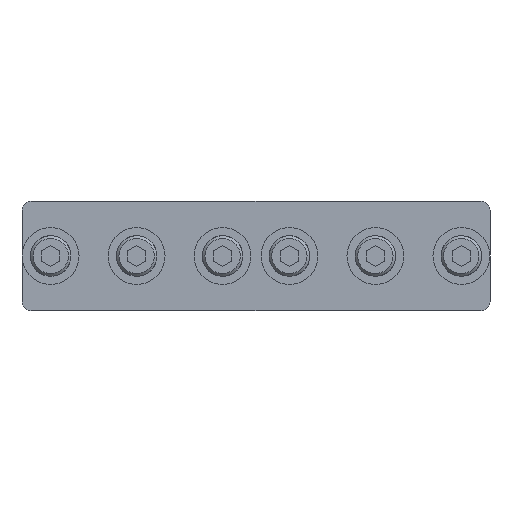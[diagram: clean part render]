
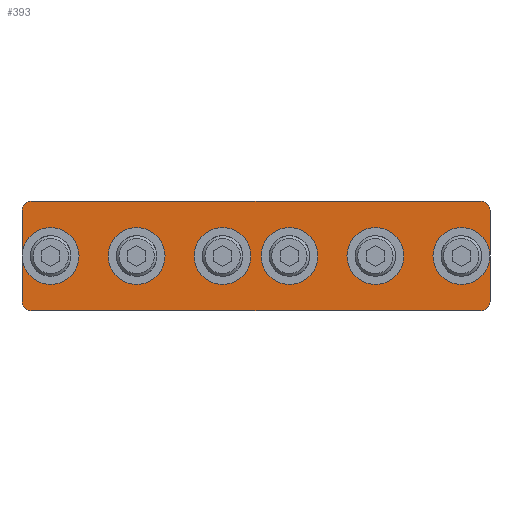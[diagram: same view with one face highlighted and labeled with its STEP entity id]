
A CAD part, left-side view. The second image highlights one B-rep face of the part: STEP entity #393.
In plain terms, the highlighted planar face has unit normal (-1, 0, 0) as drawn and (0, 0, 1) by its records, which use the part's own axes.
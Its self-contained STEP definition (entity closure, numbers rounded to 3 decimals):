
#393=ADVANCED_FACE('',(#606,#607,#608,#609,#610,#611,#612),#613,.T.);
#606=FACE_BOUND('',#775,.T.);
#607=FACE_BOUND('',#776,.T.);
#608=FACE_BOUND('',#777,.T.);
#609=FACE_OUTER_BOUND('',#778,.T.);
#610=FACE_BOUND('',#779,.T.);
#611=FACE_BOUND('',#780,.T.);
#612=FACE_BOUND('',#781,.T.);
#613=PLANE('',#782);
#775=EDGE_LOOP('',(#1047));
#776=EDGE_LOOP('',(#1048));
#777=EDGE_LOOP('',(#1049));
#778=EDGE_LOOP('',(#1050,#1051,#1052,#1053,#1054,#1055,#1056,#1057));
#779=EDGE_LOOP('',(#1058));
#780=EDGE_LOOP('',(#1059));
#781=EDGE_LOOP('',(#1060));
#782=AXIS2_PLACEMENT_3D('',#1061,#1062,#1063);
#1047=ORIENTED_EDGE('',*,*,#1287,.T.);
#1048=ORIENTED_EDGE('',*,*,#1226,.T.);
#1049=ORIENTED_EDGE('',*,*,#1288,.T.);
#1050=ORIENTED_EDGE('',*,*,#1289,.T.);
#1051=ORIENTED_EDGE('',*,*,#1290,.T.);
#1052=ORIENTED_EDGE('',*,*,#1263,.T.);
#1053=ORIENTED_EDGE('',*,*,#1251,.T.);
#1054=ORIENTED_EDGE('',*,*,#1256,.T.);
#1055=ORIENTED_EDGE('',*,*,#1291,.T.);
#1056=ORIENTED_EDGE('',*,*,#1292,.T.);
#1057=ORIENTED_EDGE('',*,*,#1293,.T.);
#1058=ORIENTED_EDGE('',*,*,#1237,.T.);
#1059=ORIENTED_EDGE('',*,*,#1240,.T.);
#1060=ORIENTED_EDGE('',*,*,#1275,.T.);
#1061=CARTESIAN_POINT('',(2.,2.0,1.5));
#1062=DIRECTION('',(0.0,0.0,1.0));
#1063=DIRECTION('',(1.0,0.0,0.0));
#1226=EDGE_CURVE('',#1597,#1597,#1598,.T.);
#1237=EDGE_CURVE('',#1616,#1616,#1617,.T.);
#1240=EDGE_CURVE('',#1621,#1621,#1622,.T.);
#1251=EDGE_CURVE('',#1640,#1638,#1641,.T.);
#1256=EDGE_CURVE('',#1638,#1646,#1648,.T.);
#1263=EDGE_CURVE('',#1658,#1640,#1659,.T.);
#1275=EDGE_CURVE('',#1673,#1673,#1674,.T.);
#1287=EDGE_CURVE('',#1693,#1693,#1694,.T.);
#1288=EDGE_CURVE('',#1695,#1695,#1696,.T.);
#1289=EDGE_CURVE('',#1697,#1698,#1699,.T.);
#1290=EDGE_CURVE('',#1698,#1658,#1700,.T.);
#1291=EDGE_CURVE('',#1646,#1701,#1702,.T.);
#1292=EDGE_CURVE('',#1701,#1703,#1704,.T.);
#1293=EDGE_CURVE('',#1703,#1697,#1705,.T.);
#1597=VERTEX_POINT('',#1830);
#1598=CIRCLE('',#1831,2.6);
#1616=VERTEX_POINT('',#1853);
#1617=CIRCLE('',#1854,2.6);
#1621=VERTEX_POINT('',#1858);
#1622=CIRCLE('',#1859,2.6);
#1638=VERTEX_POINT('',#1880);
#1640=VERTEX_POINT('',#1883);
#1641=LINE('',#1884,#1885);
#1646=VERTEX_POINT('',#1891);
#1648=CIRCLE('',#1894,2.);
#1658=VERTEX_POINT('',#1907);
#1659=CIRCLE('',#1908,2.);
#1673=VERTEX_POINT('',#1926);
#1674=CIRCLE('',#1927,2.6);
#1693=VERTEX_POINT('',#1949);
#1694=CIRCLE('',#1950,2.6);
#1695=VERTEX_POINT('',#1951);
#1696=CIRCLE('',#1952,2.6);
#1697=VERTEX_POINT('',#1953);
#1698=VERTEX_POINT('',#1954);
#1699=CIRCLE('',#1955,2.0);
#1700=LINE('',#1956,#1957);
#1701=VERTEX_POINT('',#1958);
#1702=LINE('',#1959,#1960);
#1703=VERTEX_POINT('',#1961);
#1704=CIRCLE('',#1962,2.);
#1705=LINE('',#1963,#1964);
#1830=CARTESIAN_POINT('',(21.4,11.5,1.5));
#1831=AXIS2_PLACEMENT_3D('',#2140,#2141,#2142);
#1853=CARTESIAN_POINT('',(53.4,11.5,1.5));
#1854=AXIS2_PLACEMENT_3D('',#2156,#2157,#2158);
#1858=CARTESIAN_POINT('',(39.4,11.5,1.5));
#1859=AXIS2_PLACEMENT_3D('',#2162,#2163,#2164);
#1880=CARTESIAN_POINT('',(98.0,21.0,1.5));
#1883=CARTESIAN_POINT('',(98.0,2.0,1.5));
#1884=CARTESIAN_POINT('',(98.0,2.0,1.5));
#1885=VECTOR('',#2177,1.0);
#1891=CARTESIAN_POINT('',(96.0,23.0,1.5));
#1894=AXIS2_PLACEMENT_3D('',#2183,#2184,#2185);
#1907=CARTESIAN_POINT('',(96.0,0.0,1.5));
#1908=AXIS2_PLACEMENT_3D('',#2192,#2193,#2194);
#1926=CARTESIAN_POINT('',(3.4,11.5,1.5));
#1927=AXIS2_PLACEMENT_3D('',#2205,#2206,#2207);
#1949=CARTESIAN_POINT('',(89.4,11.5,1.5));
#1950=AXIS2_PLACEMENT_3D('',#2226,#2227,#2228);
#1951=CARTESIAN_POINT('',(71.4,11.5,1.5));
#1952=AXIS2_PLACEMENT_3D('',#2229,#2230,#2231);
#1953=CARTESIAN_POINT('',(0.,2.0,1.5));
#1954=CARTESIAN_POINT('',(2.,0.0,1.5));
#1955=AXIS2_PLACEMENT_3D('',#2232,#2233,#2234);
#1956=CARTESIAN_POINT('',(2.,0.0,1.5));
#1957=VECTOR('',#2235,1.0);
#1958=CARTESIAN_POINT('',(2.,23.0,1.5));
#1959=CARTESIAN_POINT('',(96.0,23.0,1.5));
#1960=VECTOR('',#2236,1.0);
#1961=CARTESIAN_POINT('',(0.,21.0,1.5));
#1962=AXIS2_PLACEMENT_3D('',#2237,#2238,#2239);
#1963=CARTESIAN_POINT('',(0.,21.0,1.5));
#1964=VECTOR('',#2240,1.0);
#2140=CARTESIAN_POINT('',(24.,11.5,1.5));
#2141=DIRECTION('',(0.0,0.0,-1.0));
#2142=DIRECTION('',(-1.0,0.0,0.0));
#2156=CARTESIAN_POINT('',(56.0,11.5,1.5));
#2157=DIRECTION('',(0.0,0.0,-1.0));
#2158=DIRECTION('',(-1.0,0.0,0.0));
#2162=CARTESIAN_POINT('',(42.0,11.5,1.5));
#2163=DIRECTION('',(0.0,0.0,-1.0));
#2164=DIRECTION('',(-1.0,0.0,0.0));
#2177=DIRECTION('',(0.0,1.0,0.0));
#2183=CARTESIAN_POINT('',(96.0,21.0,1.5));
#2184=DIRECTION('',(0.0,0.0,1.0));
#2185=DIRECTION('',(1.0,0.0,0.0));
#2192=CARTESIAN_POINT('',(96.0,2.,1.5));
#2193=DIRECTION('',(0.0,0.0,1.0));
#2194=DIRECTION('',(1.0,0.0,0.0));
#2205=CARTESIAN_POINT('',(6.,11.5,1.5));
#2206=DIRECTION('',(0.0,0.0,-1.0));
#2207=DIRECTION('',(-1.0,0.0,0.0));
#2226=CARTESIAN_POINT('',(92.0,11.5,1.5));
#2227=DIRECTION('',(0.0,0.0,-1.0));
#2228=DIRECTION('',(-1.0,0.0,0.0));
#2229=CARTESIAN_POINT('',(74.0,11.5,1.5));
#2230=DIRECTION('',(0.0,0.0,-1.0));
#2231=DIRECTION('',(-1.0,0.0,0.0));
#2232=CARTESIAN_POINT('',(2.,2.0,1.5));
#2233=DIRECTION('',(0.0,0.0,1.0));
#2234=DIRECTION('',(1.0,0.0,0.0));
#2235=DIRECTION('',(1.0,0.0,0.0));
#2236=DIRECTION('',(-1.0,0.0,0.0));
#2237=CARTESIAN_POINT('',(2.0,21.0,1.5));
#2238=DIRECTION('',(0.0,0.0,1.0));
#2239=DIRECTION('',(1.0,0.0,0.0));
#2240=DIRECTION('',(0.0,-1.0,0.0));
